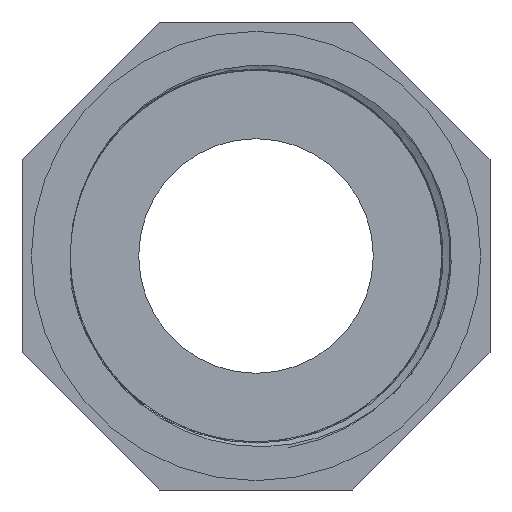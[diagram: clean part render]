
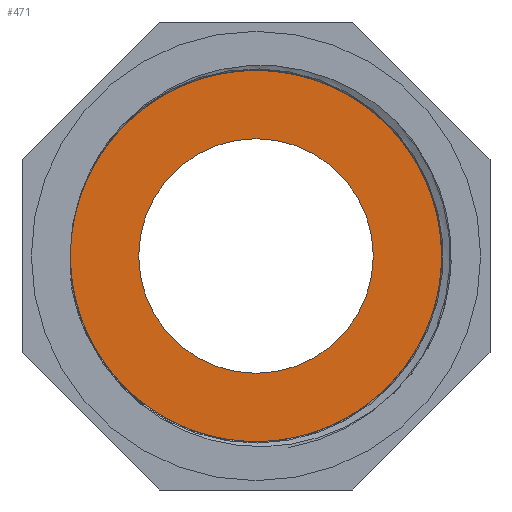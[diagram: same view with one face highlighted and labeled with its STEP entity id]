
A CAD part, front view. The second image highlights one B-rep face of the part: STEP entity #471.
In plain terms, the highlighted planar face has unit normal (0, -1, 0).
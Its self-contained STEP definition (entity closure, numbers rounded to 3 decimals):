
#18=FACE_BOUND('',#159,.T.);
#39=PLANE('',#502);
#126=FACE_OUTER_BOUND('',#158,.T.);
#158=EDGE_LOOP('',(#411));
#159=EDGE_LOOP('',(#412));
#177=CIRCLE('',#501,18.8);
#178=CIRCLE('',#503,29.807);
#242=VERTEX_POINT('',#8808);
#243=VERTEX_POINT('',#8811);
#306=EDGE_CURVE('',#242,#242,#177,.T.);
#307=EDGE_CURVE('',#243,#243,#178,.T.);
#411=ORIENTED_EDGE('',*,*,#307,.F.);
#412=ORIENTED_EDGE('',*,*,#306,.T.);
#471=ADVANCED_FACE('',(#126,#18),#39,.T.);
#501=AXIS2_PLACEMENT_3D('',#8809,#587,#588);
#502=AXIS2_PLACEMENT_3D('',#8810,#589,#590);
#503=AXIS2_PLACEMENT_3D('',#8812,#591,#592);
#587=DIRECTION('center_axis',(0.,1.,0.));
#588=DIRECTION('ref_axis',(1.,0.,0.));
#589=DIRECTION('center_axis',(0.,-1.,0.));
#590=DIRECTION('ref_axis',(0.,0.,-1.));
#591=DIRECTION('center_axis',(0.,1.,0.));
#592=DIRECTION('ref_axis',(1.,0.,0.));
#8808=CARTESIAN_POINT('',(-18.8,29.2,0.));
#8809=CARTESIAN_POINT('Origin',(0.,29.2,0.));
#8810=CARTESIAN_POINT('Origin',(-29.807,29.2,0.));
#8811=CARTESIAN_POINT('',(-29.807,29.2,0.));
#8812=CARTESIAN_POINT('Origin',(0.,29.2,0.));
